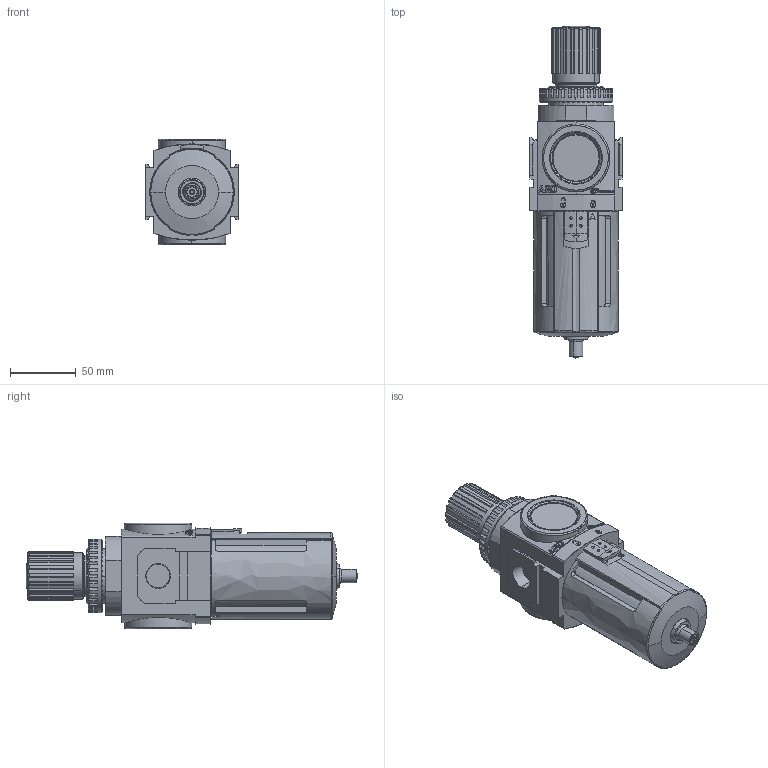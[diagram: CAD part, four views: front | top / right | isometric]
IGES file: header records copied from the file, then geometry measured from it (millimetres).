
Global section: file name: C:\Documents and Settings\szeedyk\Desktop\P393XX-X0X_02.igs; native system: NX V4.0; preprocessor: UGS NX IGES V4.0; date: 20090206.110746; units: inch
Bounding box: 70 x 251.78 x 80 mm (x, y, z)
Surface area: 104381.1 mm2 (no closed solid volume)
Topology: 0 solids, 0 shells, 1395 faces, 8560 edges, 8556 vertices
Faces by surface type: bspline 1395
